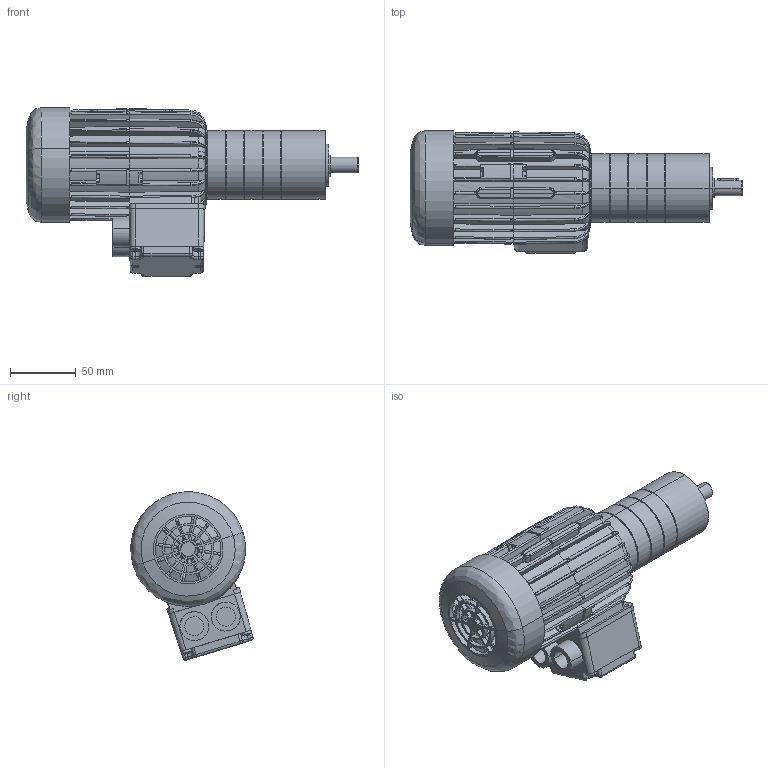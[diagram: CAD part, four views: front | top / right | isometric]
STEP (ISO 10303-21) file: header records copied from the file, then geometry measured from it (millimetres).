
FILE_DESCRIPTION (( 'STEP AP214' ), '1' );
FILE_NAME ('DG7150_+_PM52 4etages.STEP', '2014-12-08T15:07:29', ( '' ), ( '' ), 'SwSTEP 2.0', 'SolidWorks 2013', '' );
FILE_SCHEMA (( 'AUTOMOTIVE_DESIGN' ));
Length unit declared in the file: millimetre
Products named in the file (17): D625-6001-2RS; 8006231_LAGERFLANSCH; DG7150_+_PM52 4etages; Dg7150-2; adapt d662 dg7150_Part; PM52 pour 1.13.063 - 1227633; 8014926_MOTORRITZEL_Z17; GK2152_POS3_6_ANLAUFSCHEIBE_1ST; SCHRAUBE_1241978_1; 8006230_ZAHNKRANZ_Z46; 8006405_DICHTRING; 4X4X16_D6885A; D471_12X1_5; 8102168_ABTRIEB_LK1_KPL; GK2152_POS31_2_LAGERBOLZEN; 8101171_ABTRIEB_ROHTEIL_AF0; DIN998_PS_12X18X1
Assembly tree (30 placements, depth 4):
  DG7150_+_PM52 4etages
    PM52 pour 1.13.063 - 1227633
      8006231_LAGERFLANSCH
      D625-6001-2RS  x2
      DIN998_PS_12X18X1  x2
      8102168_ABTRIEB_LK1_KPL
        8101171_ABTRIEB_ROHTEIL_AF0
        GK2152_POS31_2_LAGERBOLZEN  x3
      D471_12X1_5
      4X4X16_D6885A
      8006405_DICHTRING  x2
      8006230_ZAHNKRANZ_Z46
      SCHRAUBE_1241978_1  x4
      GK2152_POS3_6_ANLAUFSCHEIBE_1ST
      8014926_MOTORRITZEL_Z17
    adapt d662 dg7150_Part
    Dg7150-2
    8006405_DICHTRING  x3
    8006230_ZAHNKRANZ_Z46  x3
Bounding box: 252.85 x 93.25 x 128.34 mm (x, y, z)
Volume: 72598.2 mm3; surface area: 188524.2 mm2
Topology: 25 solids, 57 shells, 2764 faces, 8137 edges, 5461 vertices
Faces by surface type: cylinder 1074, plane 879, cone 544, bspline 267
Entity records: 81711 total; most frequent: CARTESIAN_POINT 27364, ORIENTED_EDGE 8895, DIRECTION 8364, EDGE_CURVE 5013, VERTEX_POINT 3394, AXIS2_PLACEMENT_3D 3167, LINE 2030, VECTOR 2030
